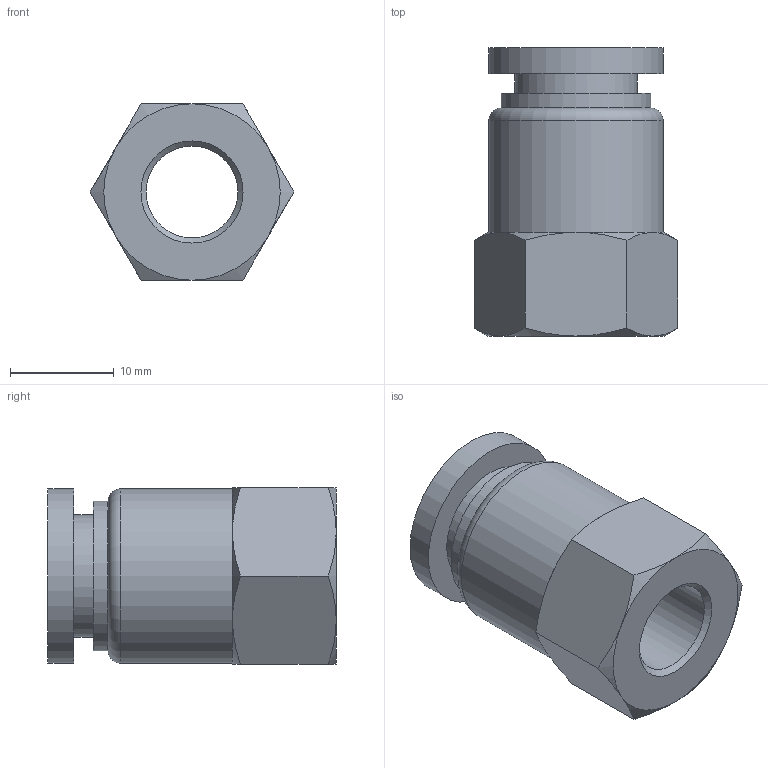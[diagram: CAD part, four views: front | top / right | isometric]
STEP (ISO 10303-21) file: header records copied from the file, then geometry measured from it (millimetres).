
FILE_DESCRIPTION(/* description */ (''),/* implementation_level */ '2;1');
FILE_NAME(/* name */ 'S:\_Tecnico\ArchivioUT\_Disegni3D ingombri\DISEGNI 3D per ingombri\RP\RP 52\RP521810.stp',/* time_stamp */ '2019-07-29T10:03:29+02:00',/* author */ ('ufficiotecnico3'),/* organization */ (''),/* preprocessor_version */ 'ST-DEVELOPER v18',/* originating_system */ 'Autodesk Inventor 2020',/* authorisation */ '');
FILE_SCHEMA (('AUTOMOTIVE_DESIGN { 1 0 10303 214 3 1 1 }'));
Length unit declared in the file: millimetre
Products named in the file (1): RP521810
Bounding box: 19.63 x 27.8 x 17 mm (x, y, z)
Volume: 4089.4 mm3; surface area: 2872.6 mm2
Topology: 1 solids, 1 shells, 32 faces, 77 edges, 51 vertices
Faces by surface type: cone 13, plane 12, cylinder 6, torus 1
Full cylindrical faces by diameter (mm): 8.848 x1, 10 x1, 11.8 x1, 14.4 x1, 16.8 x2
Entity records: 974 total; most frequent: CARTESIAN_POINT 209, DIRECTION 159, ORIENTED_EDGE 154, EDGE_CURVE 77, AXIS2_PLACEMENT_3D 73, VERTEX_POINT 51, CIRCLE 40, EDGE_LOOP 38
